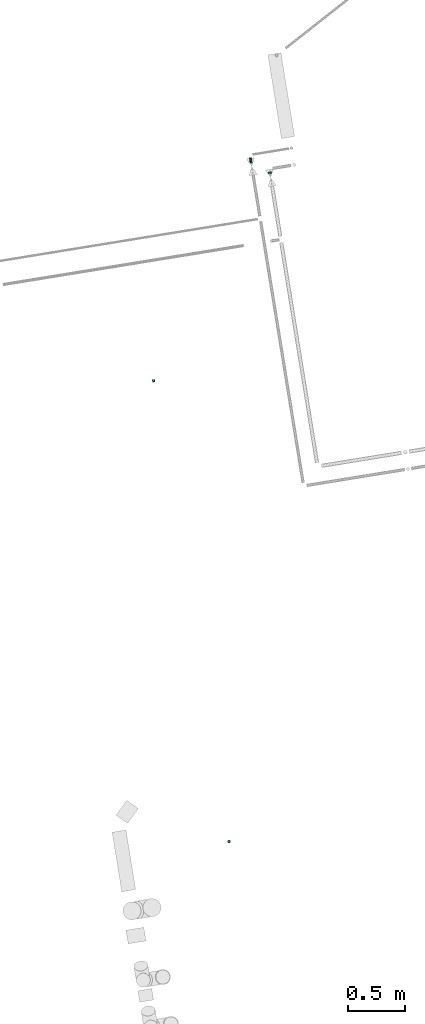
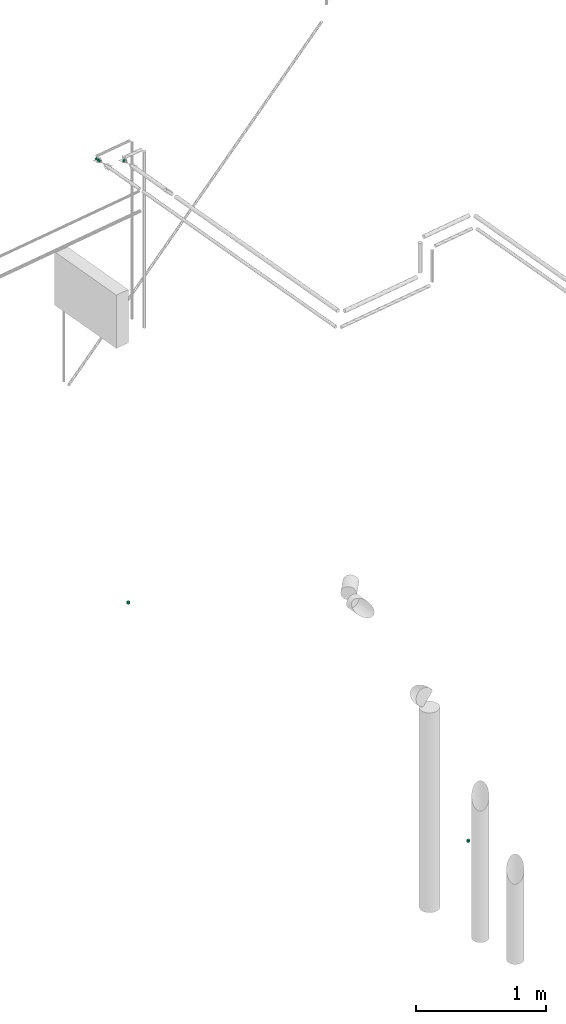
# One storey, part 7 of 11: 2 flow segments, 2 flow terminals.
"""IFC2X3 building model written with IfcOpenShell, lengths in millimetres."""

import ifcopenshell
import ifcopenshell.guid

model = None  # the IFC model being written
_history = None  # IfcOwnerHistory: only IFC2X3 demands one
_inside = {}  # id of a spatial element -> (the spatial element, [elements in it])
_under = {}  # id of a project, library or spatial element -> (it, [spatial elements below it])
_declared = {}  # id of a project -> (the project, [libraries it declares])
_typed = {}  # id of a type object -> (the type object, [elements of that type])
_made_of = {}  # id of a material, layer set ... -> (it, [elements and type objects made of it])


def new_model(schema):
    """Start an empty IFC model of exactly this schema.

    Asked for "IFC4X3", IfcOpenShell would pick the latest addendum, in which some entities
    have other attributes; the version numbers below select the first issue.
    IFC2X3 requires an IfcOwnerHistory on every rooted entity: one is made here for all.
    """
    global model, _history
    if schema == "IFC4X3":
        model = ifcopenshell.file(schema_version=(4, 3, 0, 0))
    else:
        model = ifcopenshell.file(schema=schema)
    _inside.clear()
    _under.clear()
    _declared.clear()
    _typed.clear()
    _made_of.clear()
    _history = None
    if model.schema == "IFC2X3":
        org = make("IfcOrganization", Name="unknown")
        user = make(
            "IfcPersonAndOrganization",
            ThePerson=make("IfcPerson", FamilyName="unknown"),
            TheOrganization=org,
        )
        app = make(
            "IfcApplication",
            ApplicationDeveloper=org,
            Version="unknown",
            ApplicationFullName="unknown",
            ApplicationIdentifier="unknown",
        )
        _history = make(
            "IfcOwnerHistory",
            OwningUser=user,
            OwningApplication=app,
            ChangeAction="ADDED",
            CreationDate=0,
        )
    return model


def make(cls, **values):
    """One entity of the class cls with the attributes given. An attribute that is None is left unset."""
    return model.create_entity(
        cls, **{name: value for name, value in values.items() if value is not None}
    )


def entity(cls, *values):
    """Any entity or typed value of the class cls, its attributes in the order of the schema. None: left unset."""
    e = model.create_entity(cls)
    for i, value in enumerate(values):
        if value is not None:
            e[i] = value
    return e


def rooted(cls, **values):
    """An entity with a GlobalId (a new one), such as an element, a storey or a relation."""
    return make(cls, GlobalId=ifcopenshell.guid.new(), OwnerHistory=_history, **values)


def si_unit(unit_type, name, prefix=None):
    """IfcSIUnit, for example si_unit("LENGTHUNIT", "METRE", prefix="MILLI")."""
    return make("IfcSIUnit", UnitType=unit_type, Prefix=prefix, Name=name)


def converted_unit(unit_type, name, factor, base, dimensions=None, offset=None):
    """IfcConversionBasedUnit, such as the inch: factor (a typed value) times the base unit."""
    return make(
        "IfcConversionBasedUnit"
        if offset is None
        else "IfcConversionBasedUnitWithOffset",
        ConversionOffset=offset,
        Dimensions=None
        if dimensions is None
        else entity("IfcDimensionalExponents", *dimensions),
        UnitType=unit_type,
        Name=name,
        ConversionFactor=make(
            "IfcMeasureWithUnit", ValueComponent=factor, UnitComponent=base
        ),
    )


def derived_unit(unit_type, elements):
    """IfcDerivedUnit: a product of units, each with its exponent."""
    return make(
        "IfcDerivedUnit",
        Elements=[
            make("IfcDerivedUnitElement", Unit=unit, Exponent=power)
            for unit, power in elements
        ],
        UnitType=unit_type,
    )


def assignment(units):
    """IfcUnitAssignment: the units of a project."""
    return None if units is None else make("IfcUnitAssignment", Units=units)


def point(xyz):
    """IfcCartesianPoint."""
    return None if xyz is None else make("IfcCartesianPoint", Coordinates=xyz)


def direction(xyz):
    """IfcDirection."""
    return None if xyz is None else make("IfcDirection", DirectionRatios=xyz)


def frame(location, z_axis=None, x_axis=None):
    """IfcAxis2Placement3D, a coordinate frame: its origin and axes. An axis left out is left unset."""
    return make(
        "IfcAxis2Placement3D",
        Location=point(location),
        Axis=direction(z_axis),
        RefDirection=direction(x_axis),
    )


def frame_2d(location, x_axis=None):
    """IfcAxis2Placement2D, a coordinate frame in the plane: its origin and x axis."""
    return make(
        "IfcAxis2Placement2D", Location=point(location), RefDirection=direction(x_axis)
    )


def origin():
    """The frame at (0, 0, 0) with its axes left unset."""
    return frame((0.0, 0.0, 0.0))


def origin_with_axes():
    """The frame at (0, 0, 0) with the z axis (0, 0, 1) and the x axis (1, 0, 0) written out."""
    return frame((0.0, 0.0, 0.0), z_axis=(0.0, 0.0, 1.0), x_axis=(1.0, 0.0, 0.0))


def origin_2d_with_axis():
    """The frame at (0, 0) in the plane with the x axis (1, 0) written out."""
    return frame_2d((0.0, 0.0), x_axis=(1.0, 0.0))


def place(relative_to, where):
    """IfcLocalPlacement: puts the frame where relative to a parent placement (None: the world)."""
    return make(
        "IfcLocalPlacement", PlacementRelTo=relative_to, RelativePlacement=where
    )


def context(
    kind, dimensions, precision=None, world=None, true_north=None, identifier=None
):
    """IfcGeometricRepresentationContext, for example the 3D "Model" context."""
    return make(
        "IfcGeometricRepresentationContext",
        ContextIdentifier=identifier,
        ContextType=kind,
        CoordinateSpaceDimension=dimensions,
        Precision=precision,
        WorldCoordinateSystem=world,
        TrueNorth=true_north,
    )


def subcontext(parent, identifier, kind, view, scale=None):
    """IfcGeometricRepresentationSubContext, for example "Body" below "Model"."""
    return make(
        "IfcGeometricRepresentationSubContext",
        ContextIdentifier=identifier,
        ContextType=kind,
        ParentContext=parent,
        TargetScale=scale,
        TargetView=view,
    )


def project(units=None, contexts=None):
    """IfcProject with its units and contexts."""
    return rooted(
        "IfcProject",
        Name="project",
        RepresentationContexts=contexts,
        UnitsInContext=assignment(units),
    )


def spatial(cls, under=None, at=None, **own):
    """A site, building, storey or space (cls), placed at a placement, below another one or the project."""
    s = rooted(cls, ObjectPlacement=at, **own)
    if under is not None:
        _under.setdefault(under.id(), (under, []))[1].append(s)
    return s


def profile(cls, at=None, kind="AREA", **sizes):
    """A parametric profile (cls). Its sizes go by their IFC names, for example OverallWidth=200.0."""
    return make(cls, ProfileType=kind, Position=at, **sizes)


def rectangle(**sizes):
    """IfcRectangleProfileDef."""
    return profile("IfcRectangleProfileDef", **sizes)


def circle(**sizes):
    """IfcCircleProfileDef."""
    return profile("IfcCircleProfileDef", **sizes)


def extrude(swept, where, along, depth):
    """IfcExtrudedAreaSolid: the profile swept, set in the frame where, extruded along a direction by depth."""
    return make(
        "IfcExtrudedAreaSolid",
        SweptArea=swept,
        Position=where,
        ExtrudedDirection=direction(along),
        Depth=depth,
    )


def shape(context_of_items, identifier, shape_type, items):
    """IfcShapeRepresentation: the items that make up one representation, for example the "Body"."""
    return make(
        "IfcShapeRepresentation",
        ContextOfItems=context_of_items,
        RepresentationIdentifier=identifier,
        RepresentationType=shape_type,
        Items=items,
    )


def source(mapping_origin, context_of_items, identifier, shape_type, items):
    """IfcRepresentationMap: a shape defined once, which mapped items show again and again."""
    return make(
        "IfcRepresentationMap",
        MappingOrigin=mapping_origin,
        MappedRepresentation=shape(context_of_items, identifier, shape_type, items),
    )


def transform(
    local_origin,
    x_axis=None,
    y_axis=None,
    z_axis=None,
    scale=None,
    scale2=None,
    scale3=None,
    uniform=True,
):
    """IfcCartesianTransformationOperator3D, or its non-uniform kind. x_axis, y_axis, z_axis: its Axis1, 2, 3."""
    if uniform:
        return make(
            "IfcCartesianTransformationOperator3D",
            Axis1=direction(x_axis),
            Axis2=direction(y_axis),
            LocalOrigin=point(local_origin),
            Scale=scale,
            Axis3=direction(z_axis),
        )
    return make(
        "IfcCartesianTransformationOperator3DnonUniform",
        Axis1=direction(x_axis),
        Axis2=direction(y_axis),
        LocalOrigin=point(local_origin),
        Scale=scale,
        Axis3=direction(z_axis),
        Scale2=scale2,
        Scale3=scale3,
    )


def mapped(mapping_source, mapping_target):
    """IfcMappedItem: shows the shape of a source again, moved by a transform."""
    return make(
        "IfcMappedItem", MappingSource=mapping_source, MappingTarget=mapping_target
    )


def material(Name=None, Category=None):
    """IfcMaterial."""
    return make("IfcMaterial", Name=Name, Category=Category)


def made_of(thing, what):
    """Note that an element or type object is made of a material, layer set ...; save() writes the relation."""
    if what is not None:
        _made_of.setdefault(what.id(), (what, []))[1].append(thing)
    return thing


def type_object(cls, material=None, **own):
    """A type object (cls), such as IfcWallType, which elements share."""
    return made_of(rooted(cls, **own), material)


def element(
    cls,
    number,
    at=None,
    inside=None,
    cuts=None,
    type_object=None,
    material=None,
    context=None,
    identifier="Body",
    shape_type=None,
    held_by="IfcProductDefinitionShape",
    body=None,
    shapes=None,
    **own,
):
    """One element of the class cls, such as IfcWall. Its Tag is "e" and its number.

    at: its placement. inside: the storey or other place that contains it. cuts: it is an
    opening in that element (IfcRelVoidsElement). A single representation is given by context,
    identifier, shape_type and body (its items); several are given by shapes. held_by: the class
    of the entity that holds the representations. save() writes the other relations.
    """
    e = rooted(cls, Tag="e%d" % number, ObjectPlacement=at, **own)
    if body is not None:
        shapes = [shape(context, identifier, shape_type, body)]
    if shapes is not None:
        e.Representation = make(held_by, Representations=shapes)
    if inside is not None:
        _inside.setdefault(inside.id(), (inside, []))[1].append(e)
    if cuts is not None:
        rooted(
            "IfcRelVoidsElement", RelatingBuildingElement=cuts, RelatedOpeningElement=e
        )
    if type_object is not None:
        _typed.setdefault(type_object.id(), (type_object, []))[1].append(e)
    return made_of(e, material)


def aggregate(whole, parts):
    """IfcRelAggregates: a whole, such as a stair, and the parts it consists of."""
    return rooted("IfcRelAggregates", RelatingObject=whole, RelatedObjects=parts)


def save(model, path):
    """Write the relations noted so far, then the file.

    IfcRelAggregates (storeys below a building ...), IfcRelContainedInSpatialStructure (elements
    in a storey), IfcRelDefinesByType, IfcRelAssociatesMaterial and IfcRelDeclares: one each for
    every whole, place, type object, material and project.
    """
    for whole, parts in _under.values():
        aggregate(whole, parts)
    for where, things in _inside.values():
        rooted(
            "IfcRelContainedInSpatialStructure",
            RelatedElements=things,
            RelatingStructure=where,
        )
    for kind, things in _typed.values():
        rooted("IfcRelDefinesByType", RelatedObjects=things, RelatingType=kind)
    for what, things in _made_of.values():
        rooted("IfcRelAssociatesMaterial", RelatedObjects=things, RelatingMaterial=what)
    for by, libraries in _declared.values():
        rooted("IfcRelDeclares", RelatingContext=by, RelatedDefinitions=libraries)
    model.write(path)


model = new_model("IFC2X3")

# Units and contexts
plan_context = context("Plan", 3, precision=1e-05, world=origin_with_axes())
model_context = context("Model", 3, precision=0.01, world=origin(), true_north=direction((6.12323399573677e-17, 1.0)))
body_context = subcontext(model_context, "Body", "Model", "MODEL_VIEW")
ifc_project = project(units=[converted_unit("PLANEANGLEUNIT", "DEGREE", entity("IfcPositiveLengthMeasure", 0.0174532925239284), si_unit("PLANEANGLEUNIT", "RADIAN"), dimensions=[0, 0, 0, 0, 0, 0, 0]), si_unit("AREAUNIT", "SQUARE_METRE"), si_unit("LENGTHUNIT", "METRE", prefix="MILLI"), si_unit("MASSUNIT", "GRAM", prefix="KILO"), si_unit("POWERUNIT", "WATT"), si_unit("PRESSUREUNIT", "PASCAL", prefix="KILO"), si_unit("FORCEUNIT", "NEWTON", prefix="KILO"), si_unit("ELECTRICVOLTAGEUNIT", "VOLT"), si_unit("ELECTRICCURRENTUNIT", "AMPERE"), si_unit("THERMODYNAMICTEMPERATUREUNIT", "DEGREE_CELSIUS"), si_unit("TIMEUNIT", "SECOND"), si_unit("VOLUMEUNIT", "CUBIC_METRE"), derived_unit("LINEARVELOCITYUNIT", [(si_unit("LENGTHUNIT", "METRE"), 1), (si_unit("TIMEUNIT", "SECOND"), -1)]), derived_unit("VOLUMETRICFLOWRATEUNIT", [(si_unit("VOLUMEUNIT", "CUBIC_METRE"), 1), (si_unit("TIMEUNIT", "SECOND"), -1)]), derived_unit("THERMALTRANSMITTANCEUNIT", [(si_unit("POWERUNIT", "WATT"), 1), (si_unit("THERMODYNAMICTEMPERATUREUNIT", "KELVIN"), -1), (si_unit("AREAUNIT", "SQUARE_METRE"), -1)]), derived_unit("SOUNDPRESSUREUNIT", [(si_unit("PRESSUREUNIT", "PASCAL"), 1)])], contexts=[model_context, plan_context])

# Site, building, storey
site_placement = place(None, frame((-0.000710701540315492, 0.00438415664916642, 0.0), z_axis=(0.0, 0.0, 1.0), x_axis=(-0.160236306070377, 0.987078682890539, 0.0)))
site = spatial("IfcSite", under=ifc_project, at=site_placement, Name="Default", CompositionType="ELEMENT")
building_placement = place(site_placement, origin_with_axes())
building = spatial("IfcBuilding", under=site, at=building_placement, CompositionType="ELEMENT")
storey_placement = place(building_placement, frame((0.0, 0.0, 58999.9999999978), z_axis=(0.0, 0.0, 1.0), x_axis=(1.0, 0.0, 0.0)))
storey = spatial("IfcBuildingStorey", under=building, at=storey_placement, Name="Nivå F", CompositionType="ELEMENT", Elevation=58999.9999999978)

# Flow terminals
ifc_material = material(Name="<Unnamed>")
distribution_element_type_1 = type_object("IfcDistributionElementType", Name="PLUMBING FIXTURE - Ghost object -:UTSLAGSVASK -  - NY503T", material=ifc_material)
shared_shape = source(origin(), body_context, "Body", "SweptSolid", [
    extrude(rectangle(XDim=20.0, YDim=20.0, at=origin_2d_with_axis()), frame((0.0, 0.0, 0.0), z_axis=(0.0, 0.0, 1.0), x_axis=(0.0, 1.0, 0.0)), (0.0, 0.0, 1.0), 20.0),
])
flow_terminal_1_placement = place(storey_placement, frame((773180.588713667, -502086.497607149, 0.0), z_axis=(0.0, 0.0, 1.0), x_axis=(1.0, 0.0, 0.0)))
element("IfcFlowTerminal", 1, at=flow_terminal_1_placement, inside=storey, type_object=distribution_element_type_1, material=ifc_material, Name="PLUMBING FIXTURE - Ghost object -:UTSLAGSVASK -  - NY503T", ObjectType="PLUMBING FIXTURE - Ghost object -:UTSLAGSVASK -  - NY503T", context=body_context, shape_type="MappedRepresentation", body=[
    mapped(shared_shape, transform((0.0, 0.0, 0.0), scale=1.0)),
])
distribution_element_type_2 = type_object("IfcDistributionElementType", Name="PLUMBING FIXTURE - Ghost object -:UTSLAGSVASK -  - NY505T", material=ifc_material)
flow_terminal_2_placement = place(storey_placement, frame((777305.736014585, -502081.395852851, 0.0), z_axis=(0.0, 0.0, 1.0), x_axis=(1.0, 0.0, 0.0)))
element("IfcFlowTerminal", 2, at=flow_terminal_2_placement, inside=storey, type_object=distribution_element_type_2, material=ifc_material, Name="PLUMBING FIXTURE - Ghost object -:UTSLAGSVASK -  - NY505T", ObjectType="PLUMBING FIXTURE - Ghost object -:UTSLAGSVASK -  - NY505T", context=body_context, shape_type="MappedRepresentation", body=[
    mapped(shared_shape, transform((0.0, 0.0, 0.0), scale=1.0)),
])

# Flow segments
pipe_segment_type = type_object("IfcPipeSegmentType", Name="Pipe Types:Kobberrør", PredefinedType="NOTDEFINED")
flow_segment_1_placement = place(storey_placement, origin_with_axes())
element("IfcFlowSegment", 3, at=flow_segment_1_placement, inside=storey, type_object=pipe_segment_type, Name="Pipe Types:Kobberrør", ObjectType="Pipe Types:Kobberrør", context=body_context, shape_type="SweptSolid", body=[
    extrude(circle(Radius=14.0, at=origin_2d_with_axis()), frame((778947.651336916, -503390.672878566, 2680.0), z_axis=(1.0, 0.0, 0.0), x_axis=(0.0, -1.0, 0.0)), (0.0, 0.0, 1.0), 14.4286674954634),
])
flow_segment_2_placement = place(storey_placement, origin_with_axes())
element("IfcFlowSegment", 4, at=flow_segment_2_placement, inside=storey, type_object=pipe_segment_type, Name="Pipe Types:Kobberrør", ObjectType="Pipe Types:Kobberrør", context=body_context, shape_type="SweptSolid", body=[
    extrude(circle(Radius=11.0, at=origin_2d_with_axis()), frame((779066.700057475, -503240.672878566, 2680.0), z_axis=(1.0, 0.0, 0.0), x_axis=(0.0, -1.0, 0.0)), (0.0, 0.0, 1.0), 51.3799469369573),
])

save(model, "model.ifc")
